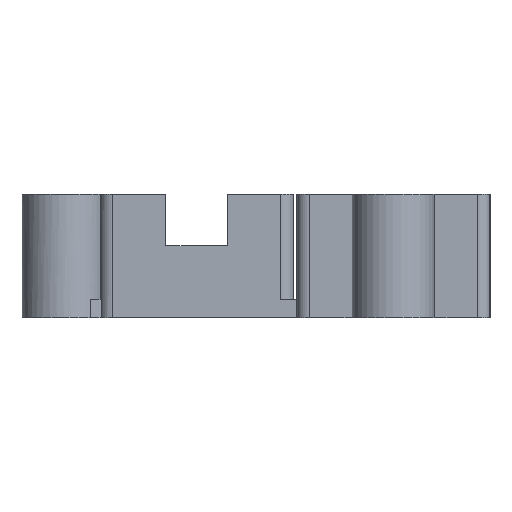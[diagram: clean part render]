
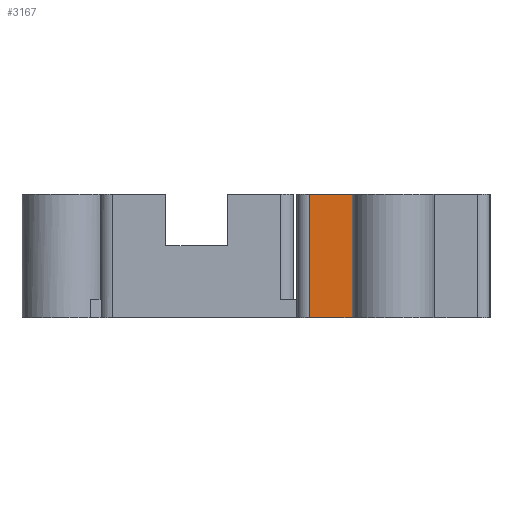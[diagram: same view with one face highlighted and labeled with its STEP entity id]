
A CAD part, left-side view. The second image highlights one B-rep face of the part: STEP entity #3167.
In plain terms, the highlighted planar face has unit normal (-1, 0, 0).
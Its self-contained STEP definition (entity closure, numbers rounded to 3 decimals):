
#99 = CYLINDRICAL_SURFACE('',#100,4.);
#100 = AXIS2_PLACEMENT_3D('',#101,#102,#103);
#101 = CARTESIAN_POINT('',(-41.5,9.525,10.));
#102 = DIRECTION('',(-0.,-0.,-1.));
#103 = DIRECTION('',(1.,0.,0.));
#126 = PLANE('',#127);
#127 = AXIS2_PLACEMENT_3D('',#128,#129,#130);
#128 = CARTESIAN_POINT('',(-39.075,6.525,17.));
#129 = DIRECTION('',(0.,0.,1.));
#130 = DIRECTION('',(1.,0.,0.));
#234 = PLANE('',#235);
#235 = AXIS2_PLACEMENT_3D('',#236,#237,#238);
#236 = CARTESIAN_POINT('',(-37.925,0.175,10.));
#237 = DIRECTION('',(0.,0.,1.));
#238 = DIRECTION('',(1.,0.,0.));
#369 = PLANE('',#370);
#370 = AXIS2_PLACEMENT_3D('',#371,#372,#373);
#371 = CARTESIAN_POINT('',(-34.,13.525,10.));
#372 = DIRECTION('',(0.,-1.,0.));
#373 = DIRECTION('',(0.,0.,1.));
#382 = VERTEX_POINT('',#383);
#383 = CARTESIAN_POINT('',(-37.925,11.319,11.8));
#398 = PLANE('',#399);
#399 = AXIS2_PLACEMENT_3D('',#400,#401,#402);
#400 = CARTESIAN_POINT('',(-37.925,0.175,11.8));
#401 = DIRECTION('',(0.,0.,1.));
#402 = DIRECTION('',(1.,0.,0.));
#414 = EDGE_CURVE('',#415,#382,#417,.T.);
#415 = VERTEX_POINT('',#416);
#416 = CARTESIAN_POINT('',(-37.925,11.319,17.));
#417 = SURFACE_CURVE('',#418,(#422,#428),.PCURVE_S1.);
#418 = LINE('',#419,#420);
#419 = CARTESIAN_POINT('',(-37.925,11.319,10.));
#420 = VECTOR('',#421,1.);
#421 = DIRECTION('',(-0.,-0.,-1.));
#422 = PCURVE('',#99,#423);
#423 = DEFINITIONAL_REPRESENTATION('',(#424),#427);
#424 = B_SPLINE_CURVE_WITH_KNOTS('',1,(#425,#426),.UNSPECIFIED.,.F.,.F.,
  (2,2),(-12.,-0.78),.PIECEWISE_BEZIER_KNOTS.);
#425 = CARTESIAN_POINT('',(-0.465,-12.));
#426 = CARTESIAN_POINT('',(-0.465,-0.78));
#427 = ( GEOMETRIC_REPRESENTATION_CONTEXT(2) 
PARAMETRIC_REPRESENTATION_CONTEXT() REPRESENTATION_CONTEXT('2D SPACE',''
  ) );
#428 = PCURVE('',#429,#434);
#429 = PLANE('',#430);
#430 = AXIS2_PLACEMENT_3D('',#431,#432,#433);
#431 = CARTESIAN_POINT('',(-37.925,0.175,10.));
#432 = DIRECTION('',(1.,0.,0.));
#433 = DIRECTION('',(0.,0.,1.));
#434 = DEFINITIONAL_REPRESENTATION('',(#435),#439);
#435 = LINE('',#436,#437);
#436 = CARTESIAN_POINT('',(0.,-11.144));
#437 = VECTOR('',#438,1.);
#438 = DIRECTION('',(-1.,0.));
#439 = ( GEOMETRIC_REPRESENTATION_CONTEXT(2) 
PARAMETRIC_REPRESENTATION_CONTEXT() REPRESENTATION_CONTEXT('2D SPACE',''
  ) );
#574 = VERTEX_POINT('',#575);
#575 = CARTESIAN_POINT('',(-37.925,12.525,17.));
#591 = PLANE('',#592);
#592 = AXIS2_PLACEMENT_3D('',#593,#594,#595);
#593 = CARTESIAN_POINT('',(-39.075,12.525,17.));
#594 = DIRECTION('',(0.,1.,0.));
#595 = DIRECTION('',(0.,0.,1.));
#603 = EDGE_CURVE('',#574,#415,#604,.T.);
#604 = SURFACE_CURVE('',#605,(#609,#615),.PCURVE_S1.);
#605 = LINE('',#606,#607);
#606 = CARTESIAN_POINT('',(-37.925,3.35,17.));
#607 = VECTOR('',#608,1.);
#608 = DIRECTION('',(0.,-1.,0.));
#609 = PCURVE('',#126,#610);
#610 = DEFINITIONAL_REPRESENTATION('',(#611),#614);
#611 = B_SPLINE_CURVE_WITH_KNOTS('',1,(#612,#613),.UNSPECIFIED.,.F.,.F.,
  (2,2),(-9.175,-3.175),.PIECEWISE_BEZIER_KNOTS.);
#612 = CARTESIAN_POINT('',(1.15,6.));
#613 = CARTESIAN_POINT('',(1.15,0.));
#614 = ( GEOMETRIC_REPRESENTATION_CONTEXT(2) 
PARAMETRIC_REPRESENTATION_CONTEXT() REPRESENTATION_CONTEXT('2D SPACE',''
  ) );
#615 = PCURVE('',#429,#616);
#616 = DEFINITIONAL_REPRESENTATION('',(#617),#621);
#617 = LINE('',#618,#619);
#618 = CARTESIAN_POINT('',(7.,-3.175));
#619 = VECTOR('',#620,1.);
#620 = DIRECTION('',(0.,1.));
#621 = ( GEOMETRIC_REPRESENTATION_CONTEXT(2) 
PARAMETRIC_REPRESENTATION_CONTEXT() REPRESENTATION_CONTEXT('2D SPACE',''
  ) );
#1536 = VERTEX_POINT('',#1537);
#1537 = CARTESIAN_POINT('',(-37.925,17.675,10.));
#1556 = CYLINDRICAL_SURFACE('',#1557,1.2);
#1557 = AXIS2_PLACEMENT_3D('',#1558,#1559,#1560);
#1558 = CARTESIAN_POINT('',(-36.725,17.675,10.));
#1559 = DIRECTION('',(0.,0.,1.));
#1560 = DIRECTION('',(-1.,-0.,0.));
#1568 = EDGE_CURVE('',#1569,#1536,#1571,.T.);
#1569 = VERTEX_POINT('',#1570);
#1570 = CARTESIAN_POINT('',(-37.925,13.525,10.));
#1571 = SURFACE_CURVE('',#1572,(#1576,#1583),.PCURVE_S1.);
#1572 = LINE('',#1573,#1574);
#1573 = CARTESIAN_POINT('',(-37.925,0.175,10.));
#1574 = VECTOR('',#1575,1.);
#1575 = DIRECTION('',(0.,1.,0.));
#1576 = PCURVE('',#234,#1577);
#1577 = DEFINITIONAL_REPRESENTATION('',(#1578),#1582);
#1578 = LINE('',#1579,#1580);
#1579 = CARTESIAN_POINT('',(0.,0.));
#1580 = VECTOR('',#1581,1.);
#1581 = DIRECTION('',(0.,1.));
#1582 = ( GEOMETRIC_REPRESENTATION_CONTEXT(2) 
PARAMETRIC_REPRESENTATION_CONTEXT() REPRESENTATION_CONTEXT('2D SPACE',''
  ) );
#1583 = PCURVE('',#429,#1584);
#1584 = DEFINITIONAL_REPRESENTATION('',(#1585),#1589);
#1585 = LINE('',#1586,#1587);
#1586 = CARTESIAN_POINT('',(0.,0.));
#1587 = VECTOR('',#1588,1.);
#1588 = DIRECTION('',(0.,-1.));
#1589 = ( GEOMETRIC_REPRESENTATION_CONTEXT(2) 
PARAMETRIC_REPRESENTATION_CONTEXT() REPRESENTATION_CONTEXT('2D SPACE',''
  ) );
#3090 = EDGE_CURVE('',#3091,#1569,#3093,.T.);
#3091 = VERTEX_POINT('',#3092);
#3092 = CARTESIAN_POINT('',(-37.925,13.525,11.8));
#3093 = SURFACE_CURVE('',#3094,(#3098,#3104),.PCURVE_S1.);
#3094 = LINE('',#3095,#3096);
#3095 = CARTESIAN_POINT('',(-37.925,13.525,10.));
#3096 = VECTOR('',#3097,1.);
#3097 = DIRECTION('',(0.,-0.,-1.));
#3098 = PCURVE('',#369,#3099);
#3099 = DEFINITIONAL_REPRESENTATION('',(#3100),#3103);
#3100 = B_SPLINE_CURVE_WITH_KNOTS('',1,(#3101,#3102),.UNSPECIFIED.,.F.,
  .F.,(2,2),(-1.8,0.),.PIECEWISE_BEZIER_KNOTS.);
#3101 = CARTESIAN_POINT('',(1.8,3.925));
#3102 = CARTESIAN_POINT('',(0.,3.925));
#3103 = ( GEOMETRIC_REPRESENTATION_CONTEXT(2) 
PARAMETRIC_REPRESENTATION_CONTEXT() REPRESENTATION_CONTEXT('2D SPACE',''
  ) );
#3104 = PCURVE('',#429,#3105);
#3105 = DEFINITIONAL_REPRESENTATION('',(#3106),#3110);
#3106 = LINE('',#3107,#3108);
#3107 = CARTESIAN_POINT('',(0.,-13.35));
#3108 = VECTOR('',#3109,1.);
#3109 = DIRECTION('',(-1.,0.));
#3110 = ( GEOMETRIC_REPRESENTATION_CONTEXT(2) 
PARAMETRIC_REPRESENTATION_CONTEXT() REPRESENTATION_CONTEXT('2D SPACE',''
  ) );
#3167 = ADVANCED_FACE('',(#3168),#429,.F.);
#3168 = FACE_BOUND('',#3169,.F.);
#3169 = EDGE_LOOP('',(#3170,#3193,#3221,#3241,#3242,#3243,#3264,#3265));
#3170 = ORIENTED_EDGE('',*,*,#3171,.F.);
#3171 = EDGE_CURVE('',#3172,#1536,#3174,.T.);
#3172 = VERTEX_POINT('',#3173);
#3173 = CARTESIAN_POINT('',(-37.925,17.675,22.));
#3174 = SURFACE_CURVE('',#3175,(#3179,#3186),.PCURVE_S1.);
#3175 = LINE('',#3176,#3177);
#3176 = CARTESIAN_POINT('',(-37.925,17.675,22.));
#3177 = VECTOR('',#3178,1.);
#3178 = DIRECTION('',(0.,0.,-1.));
#3179 = PCURVE('',#429,#3180);
#3180 = DEFINITIONAL_REPRESENTATION('',(#3181),#3185);
#3181 = LINE('',#3182,#3183);
#3182 = CARTESIAN_POINT('',(12.,-17.5));
#3183 = VECTOR('',#3184,1.);
#3184 = DIRECTION('',(-1.,0.));
#3185 = ( GEOMETRIC_REPRESENTATION_CONTEXT(2) 
PARAMETRIC_REPRESENTATION_CONTEXT() REPRESENTATION_CONTEXT('2D SPACE',''
  ) );
#3186 = PCURVE('',#1556,#3187);
#3187 = DEFINITIONAL_REPRESENTATION('',(#3188),#3192);
#3188 = LINE('',#3189,#3190);
#3189 = CARTESIAN_POINT('',(-0.,12.));
#3190 = VECTOR('',#3191,1.);
#3191 = DIRECTION('',(-0.,-1.));
#3192 = ( GEOMETRIC_REPRESENTATION_CONTEXT(2) 
PARAMETRIC_REPRESENTATION_CONTEXT() REPRESENTATION_CONTEXT('2D SPACE',''
  ) );
#3193 = ORIENTED_EDGE('',*,*,#3194,.F.);
#3194 = EDGE_CURVE('',#3195,#3172,#3197,.T.);
#3195 = VERTEX_POINT('',#3196);
#3196 = CARTESIAN_POINT('',(-37.925,12.525,22.));
#3197 = SURFACE_CURVE('',#3198,(#3202,#3209),.PCURVE_S1.);
#3198 = LINE('',#3199,#3200);
#3199 = CARTESIAN_POINT('',(-37.925,0.175,22.));
#3200 = VECTOR('',#3201,1.);
#3201 = DIRECTION('',(0.,1.,0.));
#3202 = PCURVE('',#429,#3203);
#3203 = DEFINITIONAL_REPRESENTATION('',(#3204),#3208);
#3204 = LINE('',#3205,#3206);
#3205 = CARTESIAN_POINT('',(12.,0.));
#3206 = VECTOR('',#3207,1.);
#3207 = DIRECTION('',(0.,-1.));
#3208 = ( GEOMETRIC_REPRESENTATION_CONTEXT(2) 
PARAMETRIC_REPRESENTATION_CONTEXT() REPRESENTATION_CONTEXT('2D SPACE',''
  ) );
#3209 = PCURVE('',#3210,#3215);
#3210 = PLANE('',#3211);
#3211 = AXIS2_PLACEMENT_3D('',#3212,#3213,#3214);
#3212 = CARTESIAN_POINT('',(-37.925,0.175,22.));
#3213 = DIRECTION('',(0.,0.,1.));
#3214 = DIRECTION('',(1.,0.,0.));
#3215 = DEFINITIONAL_REPRESENTATION('',(#3216),#3220);
#3216 = LINE('',#3217,#3218);
#3217 = CARTESIAN_POINT('',(0.,0.));
#3218 = VECTOR('',#3219,1.);
#3219 = DIRECTION('',(0.,1.));
#3220 = ( GEOMETRIC_REPRESENTATION_CONTEXT(2) 
PARAMETRIC_REPRESENTATION_CONTEXT() REPRESENTATION_CONTEXT('2D SPACE',''
  ) );
#3221 = ORIENTED_EDGE('',*,*,#3222,.F.);
#3222 = EDGE_CURVE('',#574,#3195,#3223,.T.);
#3223 = SURFACE_CURVE('',#3224,(#3228,#3235),.PCURVE_S1.);
#3224 = LINE('',#3225,#3226);
#3225 = CARTESIAN_POINT('',(-37.925,12.525,14.4));
#3226 = VECTOR('',#3227,1.);
#3227 = DIRECTION('',(0.,0.,1.));
#3228 = PCURVE('',#429,#3229);
#3229 = DEFINITIONAL_REPRESENTATION('',(#3230),#3234);
#3230 = LINE('',#3231,#3232);
#3231 = CARTESIAN_POINT('',(4.4,-12.35));
#3232 = VECTOR('',#3233,1.);
#3233 = DIRECTION('',(1.,0.));
#3234 = ( GEOMETRIC_REPRESENTATION_CONTEXT(2) 
PARAMETRIC_REPRESENTATION_CONTEXT() REPRESENTATION_CONTEXT('2D SPACE',''
  ) );
#3235 = PCURVE('',#591,#3236);
#3236 = DEFINITIONAL_REPRESENTATION('',(#3237),#3240);
#3237 = B_SPLINE_CURVE_WITH_KNOTS('',1,(#3238,#3239),.UNSPECIFIED.,.F.,
  .F.,(2,2),(2.6,7.6),.PIECEWISE_BEZIER_KNOTS.);
#3238 = CARTESIAN_POINT('',(0.,1.15));
#3239 = CARTESIAN_POINT('',(5.,1.15));
#3240 = ( GEOMETRIC_REPRESENTATION_CONTEXT(2) 
PARAMETRIC_REPRESENTATION_CONTEXT() REPRESENTATION_CONTEXT('2D SPACE',''
  ) );
#3241 = ORIENTED_EDGE('',*,*,#603,.T.);
#3242 = ORIENTED_EDGE('',*,*,#414,.T.);
#3243 = ORIENTED_EDGE('',*,*,#3244,.T.);
#3244 = EDGE_CURVE('',#382,#3091,#3245,.T.);
#3245 = SURFACE_CURVE('',#3246,(#3250,#3257),.PCURVE_S1.);
#3246 = LINE('',#3247,#3248);
#3247 = CARTESIAN_POINT('',(-37.925,0.175,11.8));
#3248 = VECTOR('',#3249,1.);
#3249 = DIRECTION('',(0.,1.,0.));
#3250 = PCURVE('',#429,#3251);
#3251 = DEFINITIONAL_REPRESENTATION('',(#3252),#3256);
#3252 = LINE('',#3253,#3254);
#3253 = CARTESIAN_POINT('',(1.8,0.));
#3254 = VECTOR('',#3255,1.);
#3255 = DIRECTION('',(0.,-1.));
#3256 = ( GEOMETRIC_REPRESENTATION_CONTEXT(2) 
PARAMETRIC_REPRESENTATION_CONTEXT() REPRESENTATION_CONTEXT('2D SPACE',''
  ) );
#3257 = PCURVE('',#398,#3258);
#3258 = DEFINITIONAL_REPRESENTATION('',(#3259),#3263);
#3259 = LINE('',#3260,#3261);
#3260 = CARTESIAN_POINT('',(0.,0.));
#3261 = VECTOR('',#3262,1.);
#3262 = DIRECTION('',(0.,1.));
#3263 = ( GEOMETRIC_REPRESENTATION_CONTEXT(2) 
PARAMETRIC_REPRESENTATION_CONTEXT() REPRESENTATION_CONTEXT('2D SPACE',''
  ) );
#3264 = ORIENTED_EDGE('',*,*,#3090,.T.);
#3265 = ORIENTED_EDGE('',*,*,#1568,.T.);
